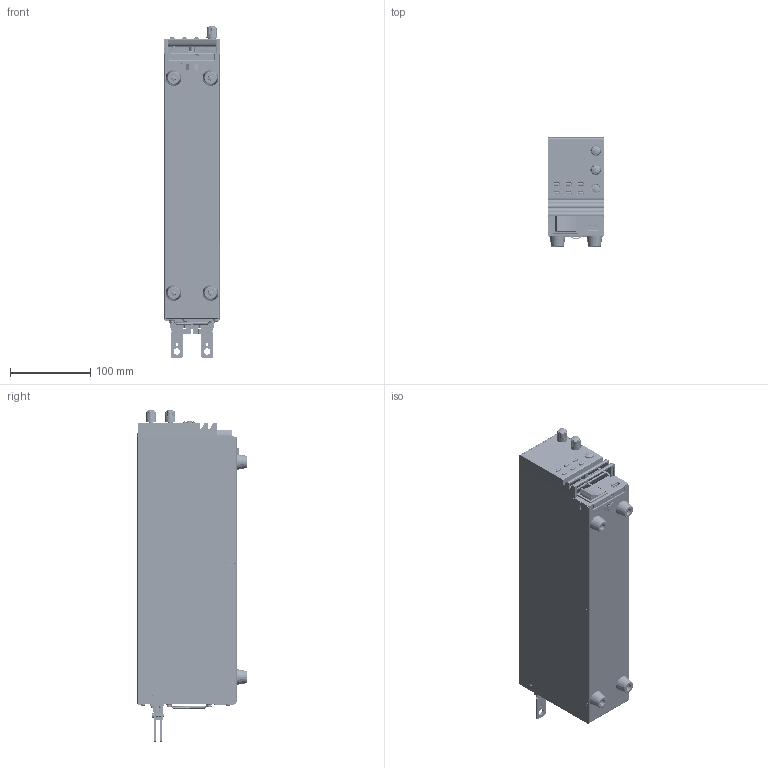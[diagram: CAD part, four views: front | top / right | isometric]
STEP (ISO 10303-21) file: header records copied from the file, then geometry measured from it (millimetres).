
FILE_DESCRIPTION((''),'2;1');
FILE_NAME('PSW_ONE_ASM_ASM_ASM','2019-03-25T14:43:32',('jeffery_kuo'),(''),'CREO PARAMETRIC BY PTC INC, 2018100','CREO PARAMETRIC BY PTC INC, 2018100','');
FILE_SCHEMA(('CONFIG_CONTROL_DESIGN'));
Products named in the file (71): PSW_ASM_SKEL_231; 63FP-AG107501_391; INSERT-CU_10; 63FP-AG107501_ASM_46_ASM; PSW-F-PCB_107; TACT_SWITCH_TC002_8; DISPLAY_14; ENCODE_SW_L25-ALPS_8; LED-6X4_DIP_5; BOARD-IN-CONNECTOR-8PIN_17; PSW-F-PCB_ASM_ASM_102_ASM; 63KE-XG2001A1_268; 5005-130G0101_32; 51SW-30080101_96; PSW-F1_ASM_ASM_478_ASM; PSW-S1_ASM_ASM_45_ASM; 62SW-360FP1A1_429; 62SW-360FP1A1_ASM_24_ASM; POWER_SW_AJ8R1013_28; PSW-FP1_ASM_ASM_32_ASM; 62SW-360LO1A1_293; BSO-M3X55_10; 62SW-360LO1A1_ASM_94_ASM; PSW-MAINPCB_229; 3P-AC-INLET_3; USB2_7; RJ-45_16; PSW-MAINPCB1_ASM_ASM_131_ASM; BMS-LOCK-3X4_9; 57FC-10B0100_GL-4L-B_3; BMS-W-3X10_11; BOX-TYPE-PLUGS-26PIN_1; DOUBLE-ROW-SOCKETS_ASM_ASM_1_ASM; USB_7; 62SW-080HP501_20; PSW-ANALOG-DIGITAL-PCB_ASM_ASM__ASM; PSW-LO1_ASM_ASM_211_ASM; 62SW-360RP101_243; 62SW-360RP101_ASM_26_ASM; 57IL-20G00101_5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
Assembly tree (153 placements, depth 6):
  PSW_ONE_ASM_ASM_ASM
    PSW_ONE_ASM_ASM_1129_ASM
      PSW_ASM_SKEL_231
      PSW-S1_ASM_ASM_45_ASM
        PSW-F1_ASM_ASM_478_ASM
          63FP-AG107501_ASM_46_ASM
            63FP-AG107501_391
            INSERT-CU_10  x2
          PSW-F-PCB_ASM_ASM_102_ASM
            PSW-F-PCB_107
            TACT_SWITCH_TC002_8  x7
            DISPLAY_14  x8
            ENCODE_SW_L25-ALPS_8  x2
            LED-6X4_DIP_5  x17
            BOARD-IN-CONNECTOR-8PIN_17
          63KE-XG2001A1_268
          5005-130G0101_32  x2
          51SW-30080101_96
      PSW-FP1_ASM_ASM_32_ASM
        62SW-360FP1A1_ASM_24_ASM
          62SW-360FP1A1_429
        POWER_SW_AJ8R1013_28
      PSW-LO1_ASM_ASM_211_ASM
        62SW-360LO1A1_ASM_94_ASM
          62SW-360LO1A1_293
          BSO-M3X55_10  x6
        PSW-MAINPCB1_ASM_ASM_131_ASM
          PSW-MAINPCB_229
          3P-AC-INLET_3
          USB2_7
          RJ-45_16
        BMS-LOCK-3X4_9  x6
        57FC-10B0100_GL-4L-B_3  x4
        BMS-W-3X10_11  x4
        PSW-ANALOG-DIGITAL-PCB_ASM_ASM__ASM
          DOUBLE-ROW-SOCKETS_ASM_ASM_1_ASM
            BOX-TYPE-PLUGS-26PIN_1
          USB_7
          62SW-080HP501_20
      PSW-RP1_ASM_ASM_81_ASM
        62SW-360RP101_ASM_26_ASM
          62SW-360RP101_243
        PBT_ASM_ASM_52_ASM
          57IL-20G00101_ASM_7_ASM
            57IL-20G00101_5
          62SW-080CP101_74
          62SW-080CP201_107
        FAN-60X60-25_26_ASM
          FAN-60X60-25_26_1
          FAN-60X60-25_26_2
        FAN-NET-60-60_2_ASM
          FAN-NET-60-60_2_1
          FAN-NET-60-60_2_2
          FAN-NET-60-60_2_3
          FAN-NET-60-60_2_4
          FAN-NET-60-60_2_5
          FAN-NET-60-60_2_6
        PSW-OUTPUT-PCB_ASM_ASM_62_ASM
          PSW-OUTPUT-PCB_76
          62SW-080CP901_8  x2
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Bounding box: 70.8 x 136.4 x 413.8 mm (x, y, z)
Volume: 319497.3 mm3; surface area: 487867.8 mm2
Topology: 131 solids, 133 shells, 8555 faces, 22114 edges, 14206 vertices
Faces by surface type: plane 5683, cylinder 1612, cone 576, bspline 426, torus 130, sphere 128
Entity records: 184139 total; most frequent: CARTESIAN_POINT 52398, ORIENTED_EDGE 27379, DIRECTION 26639, EDGE_CURVE 13714, VECTOR 9253, LINE 9253, VERTEX_POINT 8783, AXIS2_PLACEMENT_3D 8693
